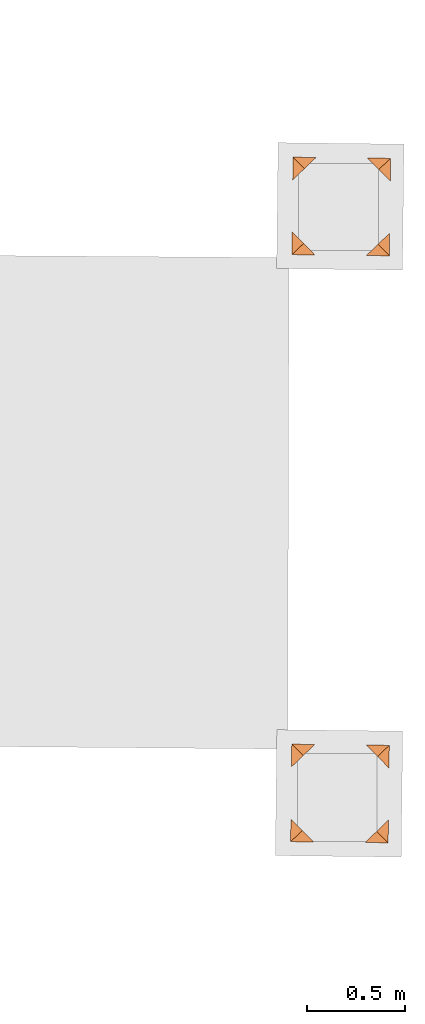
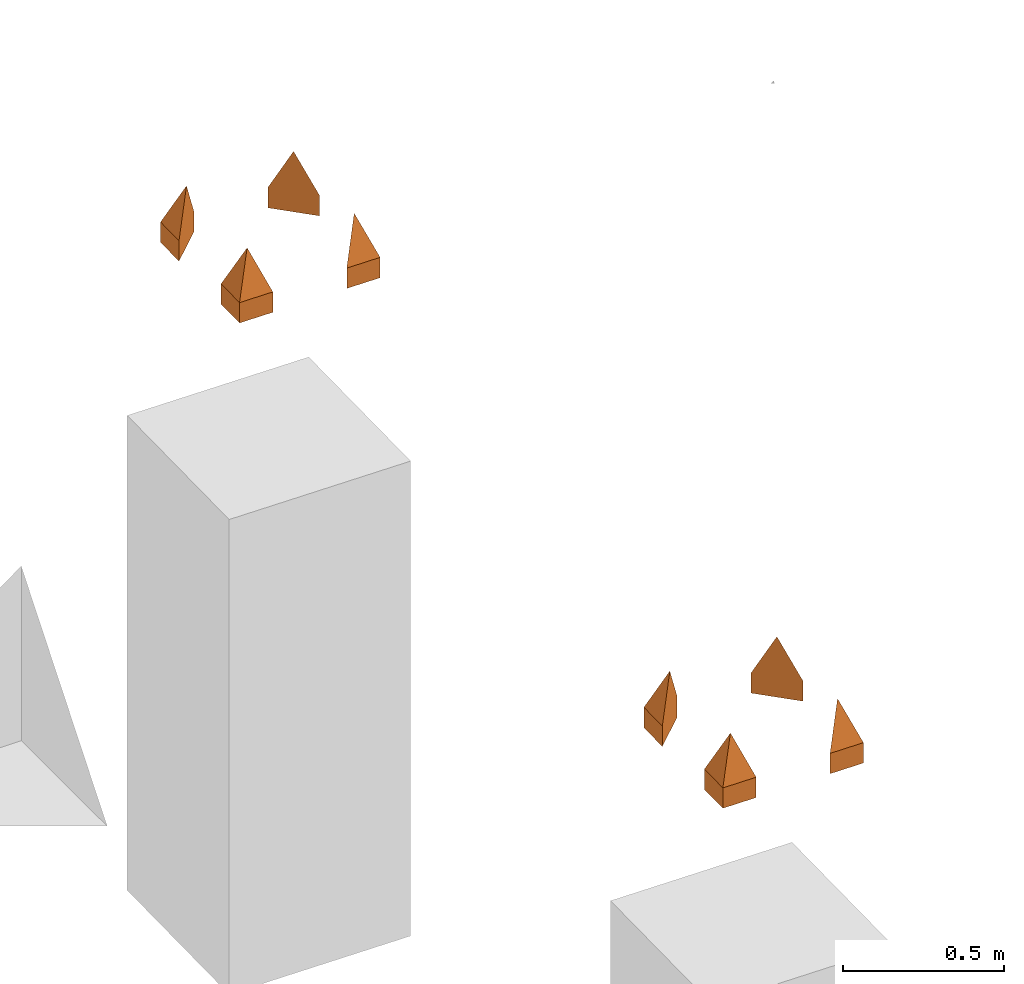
# One storey, part 143 of 158: 8 proxies.
"""IFC2X3 building model written with IfcOpenShell, lengths in metres."""

from ifc_helpers import new_model, entity, si_unit, converted_unit, derived_unit, money_unit, direction, frame, origin_with_axes, place, context, subcontext, project, spatial, faceted_brep, source, transform, mapped, material, type_object, element, save


model = new_model("IFC2X3")

# Units and contexts
model_context = context("Model", 3, precision=1e-05, world=origin_with_axes(), true_north=direction((0.0, 1.0)))
body_context = subcontext(model_context, "Body", "Model", "MODEL_VIEW")
ifc_project = project(units=[si_unit("LENGTHUNIT", "METRE"), si_unit("AREAUNIT", "SQUARE_METRE"), si_unit("VOLUMEUNIT", "CUBIC_METRE"), converted_unit("PLANEANGLEUNIT", "DEGREE", entity("IfcPlaneAngleMeasure", 0.0174532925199), si_unit("PLANEANGLEUNIT", "RADIAN"), dimensions=[0, 0, 0, 0, 0, 0, 0]), money_unit("EUR"), converted_unit("TIMEUNIT", "Year", entity("IfcTimeMeasure", 31556926.0), si_unit("TIMEUNIT", "SECOND"), dimensions=[0, 0, 1, 0, 0, 0, 0]), si_unit("MASSUNIT", "GRAM", prefix="KILO"), si_unit("THERMODYNAMICTEMPERATUREUNIT", "DEGREE_CELSIUS"), si_unit("LUMINOUSINTENSITYUNIT", "LUMEN"), si_unit("ENERGYUNIT", "JOULE", prefix="MEGA"), derived_unit("THERMALCONDUCTANCEUNIT", [(si_unit("POWERUNIT", "WATT"), 1), (si_unit("LENGTHUNIT", "METRE"), -1), (si_unit("THERMODYNAMICTEMPERATUREUNIT", "KELVIN"), -1)]), derived_unit("SPECIFICHEATCAPACITYUNIT", [(si_unit("ENERGYUNIT", "JOULE"), 1), (si_unit("MASSUNIT", "GRAM", prefix="KILO"), -1), (si_unit("THERMODYNAMICTEMPERATUREUNIT", "KELVIN"), -1)]), derived_unit("MASSDENSITYUNIT", [(si_unit("MASSUNIT", "GRAM", prefix="KILO"), 1), (si_unit("VOLUMEUNIT", "CUBIC_METRE"), -1)])], contexts=[model_context])

# Site, building, storey
site_placement = place(None, origin_with_axes())
site = spatial("IfcSite", under=ifc_project, at=site_placement, Name="Gelände", CompositionType="ELEMENT")
building_placement = place(site_placement, origin_with_axes())
building = spatial("IfcBuilding", under=site, at=building_placement, Name="Gebäude", CompositionType="ELEMENT")
storey_placement = place(building_placement, origin_with_axes())
storey = spatial("IfcBuildingStorey", under=building, at=storey_placement, Name="ERDGESCHOSS", CompositionType="ELEMENT", Elevation=0.0)

# Proxies
ifc_material = material(Name="01_ALLGEMEIN - BAUTEIL")
building_element_proxy_type = type_object("IfcBuildingElementProxyType", Name="01_ALLGEMEIN - BAUTEIL", PredefinedType="NOTDEFINED")
shared_shape_1 = source(origin_with_axes(), body_context, "Body", "Brep", [
    faceted_brep([(0.0, 0.0, 0.0), (-0.118380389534, -0.116671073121, 0.0), (-0.118380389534, -0.116671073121, 0.077), (0.0, -0.116671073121, 0.0), (0.0, -0.116671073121, 0.077), (-0.059556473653, -0.0586965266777, 0.228738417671), (0.0, 0.0, 0.077)], [[[0, 1, 2]], [[1, 0, 3]], [[2, 1, 3, 4]], [[2, 5, 6, 0]], [[3, 0, 6, 4]], [[5, 2, 4]], [[4, 6, 5]]]),
])
for number, where, z_axis, x_axis, name in (
    (1, (34.6275812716, 16.4051759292, -0.640779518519), (0.0, 0.0, 1.0), (0.999928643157, -0.0119460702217, 0.0), "Morph-295"),
    (2, (34.6339053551, 19.4118996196, -0.630245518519), (0.0, 0.0, 1.0), (0.999928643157, -0.0119460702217, 0.0), "Morph-295"),
    (3, (34.1311029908, 16.6774625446, -0.640779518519), (0.0, 0.0, 1.0), (-0.999928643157, 0.0119460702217, 0.0), "Morph-295"),
    (4, (34.1374270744, 19.6841862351, -0.630245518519), (0.0, 0.0, 1.0), (-0.999928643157, 0.0119460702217, 0.0), "Morph-295"),
):
    element("IfcBuildingElementProxy", number, at=place(storey_placement, frame(where, z_axis=z_axis, x_axis=x_axis)), inside=storey, type_object=building_element_proxy_type, material=ifc_material, Name=name, context=body_context, shape_type="MappedRepresentation", body=[
        mapped(shared_shape_1, transform((0.0, 0.0, 0.0))),
    ])
shared_shape_2 = source(origin_with_axes(), body_context, "Body", "Brep", [
    faceted_brep([(0.0, 0.0, 0.0), (0.118380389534, -0.116671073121, 0.077), (0.118380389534, -0.116671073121, 0.0), (0.0, 0.0, 0.077), (0.059556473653, -0.0586965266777, 0.228738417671), (0.0, -0.116671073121, 0.077), (0.0, -0.116671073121, 0.0)], [[[0, 1, 2]], [[1, 0, 3, 4]], [[1, 5, 6, 2]], [[2, 6, 0]], [[6, 5, 3, 0]], [[5, 4, 3]], [[4, 5, 1]]]),
])
for number, where, z_axis, x_axis, name in (
    (5, (34.1279213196, 16.411145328, -0.640779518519), (0.0, 0.0, 1.0), (0.999928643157, -0.0119460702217, 0.0), "Morph-295"),
    (6, (34.1342454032, 19.4178690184, -0.630245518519), (0.0, 0.0, 1.0), (0.999928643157, -0.0119460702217, 0.0), "Morph-295"),
    (7, (34.6307629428, 16.6714931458, -0.640779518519), (0.0, 0.0, 1.0), (-0.999928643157, 0.0119460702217, 0.0), "Morph-295"),
    (8, (34.6370870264, 19.6782168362, -0.630245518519), (0.0, 0.0, 1.0), (-0.999928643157, 0.0119460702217, 0.0), "Morph-295"),
):
    element("IfcBuildingElementProxy", number, at=place(storey_placement, frame(where, z_axis=z_axis, x_axis=x_axis)), inside=storey, type_object=building_element_proxy_type, material=ifc_material, Name=name, context=body_context, shape_type="MappedRepresentation", body=[
        mapped(shared_shape_2, transform((0.0, 0.0, 0.0))),
    ])

save(model, "model.ifc")
